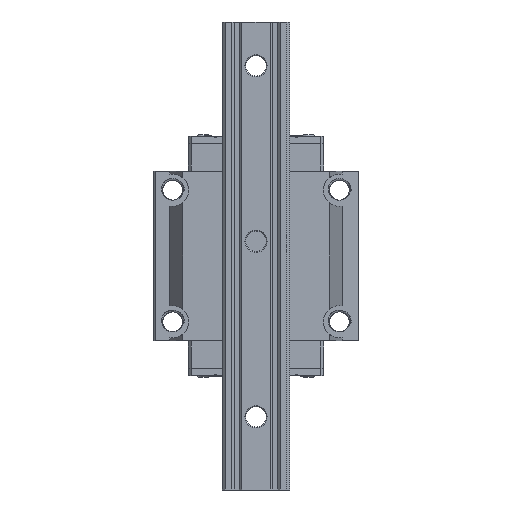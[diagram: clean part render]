
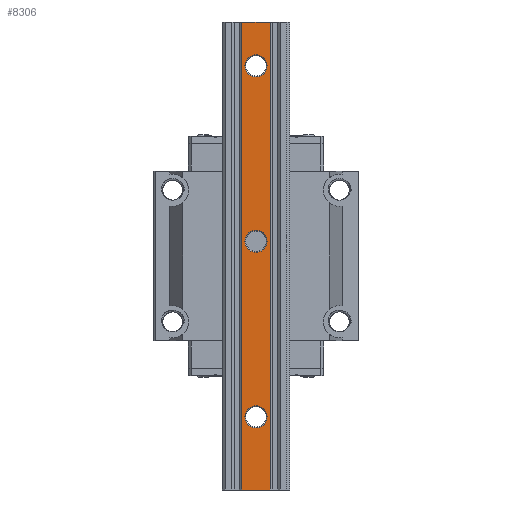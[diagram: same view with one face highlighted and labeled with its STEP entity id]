
A CAD part, front view. The second image highlights one B-rep face of the part: STEP entity #8306.
In plain terms, the highlighted planar face has unit normal (0, -1, 0).
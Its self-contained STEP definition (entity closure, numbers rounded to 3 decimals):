
#7555=FACE_BOUND('',#10816,.T.);
#7556=FACE_BOUND('',#10817,.T.);
#7557=FACE_BOUND('',#10818,.T.);
#7558=FACE_BOUND('',#10819,.T.);
#7945=CIRCLE('',#24510,3.8);
#7946=CIRCLE('',#24512,3.8);
#7947=CIRCLE('',#24513,3.8);
#7948=CIRCLE('',#24514,3.8);
#7949=CIRCLE('',#24515,3.8);
#7950=CIRCLE('',#24516,3.8);
#8306=ADVANCED_FACE('',(#7555,#7556,#7557,#7558),#9295,.T.);
#9295=PLANE('',#24517);
#10816=EDGE_LOOP('',(#12115,#12116,#12117,#12118));
#10817=EDGE_LOOP('',(#12119,#12120));
#10818=EDGE_LOOP('',(#12121,#12122));
#10819=EDGE_LOOP('',(#12123,#12124));
#12115=ORIENTED_EDGE('',*,*,#18808,.F.);
#12116=ORIENTED_EDGE('',*,*,#18733,.T.);
#12117=ORIENTED_EDGE('',*,*,#18809,.T.);
#12118=ORIENTED_EDGE('',*,*,#18696,.T.);
#12119=ORIENTED_EDGE('',*,*,#18810,.F.);
#12120=ORIENTED_EDGE('',*,*,#18811,.F.);
#12121=ORIENTED_EDGE('',*,*,#18812,.F.);
#12122=ORIENTED_EDGE('',*,*,#18813,.F.);
#12123=ORIENTED_EDGE('',*,*,#18814,.F.);
#12124=ORIENTED_EDGE('',*,*,#18807,.F.);
#17019=VERTEX_POINT('',#29857);
#17020=VERTEX_POINT('',#29859);
#17055=VERTEX_POINT('',#29932);
#17056=VERTEX_POINT('',#29934);
#17095=VERTEX_POINT('',#30078);
#17096=VERTEX_POINT('',#30080);
#17097=VERTEX_POINT('',#30086);
#17098=VERTEX_POINT('',#30087);
#17099=VERTEX_POINT('',#30090);
#17100=VERTEX_POINT('',#30091);
#18696=EDGE_CURVE('',#17020,#17019,#21251,.T.);
#18733=EDGE_CURVE('',#17056,#17055,#21284,.T.);
#18807=EDGE_CURVE('',#17096,#17095,#7945,.T.);
#18808=EDGE_CURVE('',#17056,#17019,#21338,.T.);
#18809=EDGE_CURVE('',#17055,#17020,#21339,.T.);
#18810=EDGE_CURVE('',#17097,#17098,#7946,.T.);
#18811=EDGE_CURVE('',#17098,#17097,#7947,.T.);
#18812=EDGE_CURVE('',#17099,#17100,#7948,.T.);
#18813=EDGE_CURVE('',#17100,#17099,#7949,.T.);
#18814=EDGE_CURVE('',#17095,#17096,#7950,.T.);
#21251=LINE('',#29858,#22795);
#21284=LINE('',#29933,#22828);
#21338=LINE('',#30083,#22882);
#21339=LINE('',#30084,#22883);
#22795=VECTOR('',#25704,1.);
#22828=VECTOR('',#25749,1.);
#22882=VECTOR('',#25913,1.);
#22883=VECTOR('',#25914,1.);
#24510=AXIS2_PLACEMENT_3D('',#30081,#25909,#25910);
#24512=AXIS2_PLACEMENT_3D('',#30085,#25915,#25916);
#24513=AXIS2_PLACEMENT_3D('',#30088,#25917,#25918);
#24514=AXIS2_PLACEMENT_3D('',#30089,#25919,#25920);
#24515=AXIS2_PLACEMENT_3D('',#30092,#25921,#25922);
#24516=AXIS2_PLACEMENT_3D('',#30093,#25923,#25924);
#24517=AXIS2_PLACEMENT_3D('',#30094,#25925,#25926);
#25704=DIRECTION('',(1.,0.,0.));
#25749=DIRECTION('',(-1.,0.,0.));
#25909=DIRECTION('',(0.,-1.,0.));
#25910=DIRECTION('',(0.,0.,-1.));
#25913=DIRECTION('',(0.,0.,-1.));
#25914=DIRECTION('',(0.,0.,-1.));
#25915=DIRECTION('',(0.,-1.,0.));
#25916=DIRECTION('',(0.,0.,1.));
#25917=DIRECTION('',(0.,-1.,0.));
#25918=DIRECTION('',(0.,0.,-1.));
#25919=DIRECTION('',(0.,-1.,0.));
#25920=DIRECTION('',(0.,0.,1.));
#25921=DIRECTION('',(0.,-1.,0.));
#25922=DIRECTION('',(0.,0.,-1.));
#25923=DIRECTION('',(0.,-1.,0.));
#25924=DIRECTION('',(0.,0.,1.));
#25925=DIRECTION('',(0.,-1.,0.));
#25926=DIRECTION('',(0.,0.,-1.));
#29857=CARTESIAN_POINT('',(4.929,0.,-160.));
#29858=CARTESIAN_POINT('',(-4.929,0.,-160.));
#29859=CARTESIAN_POINT('',(-4.929,0.,-160.));
#29932=CARTESIAN_POINT('',(-4.929,0.,0.));
#29933=CARTESIAN_POINT('',(4.929,0.,0.));
#29934=CARTESIAN_POINT('',(4.929,0.,0.));
#30078=CARTESIAN_POINT('',(0.,0.,-11.2));
#30080=CARTESIAN_POINT('',(0.,0.,-18.8));
#30081=CARTESIAN_POINT('',(0.,0.,-15.));
#30083=CARTESIAN_POINT('',(4.929,0.,0.));
#30084=CARTESIAN_POINT('',(-4.929,0.,0.));
#30085=CARTESIAN_POINT('',(0.,0.,-135.));
#30086=CARTESIAN_POINT('',(0.,0.,-131.2));
#30087=CARTESIAN_POINT('',(0.,0.,-138.8));
#30088=CARTESIAN_POINT('',(0.,0.,-135.));
#30089=CARTESIAN_POINT('',(0.,0.,-75.));
#30090=CARTESIAN_POINT('',(0.,0.,-71.2));
#30091=CARTESIAN_POINT('',(0.,0.,-78.8));
#30092=CARTESIAN_POINT('',(0.,0.,-75.));
#30093=CARTESIAN_POINT('',(0.,0.,-15.));
#30094=CARTESIAN_POINT('',(-11.5,0.,-901.828));
